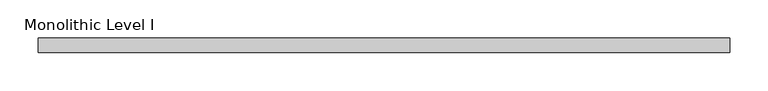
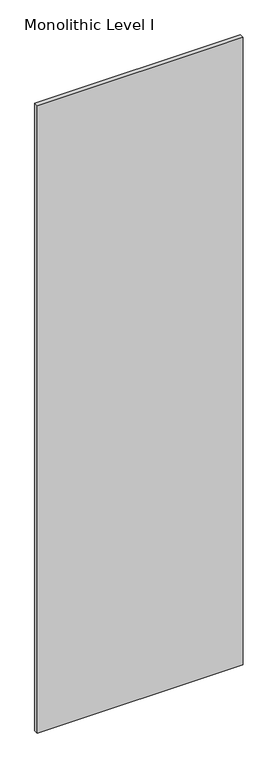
"""IFC4 building model written with IfcOpenShell, lengths in millimetres: proxy geometry, Panel-Fascia-Teknion-Altos-Standard : Monolithic Level I."""

from ifc_helpers import new_model, si_unit, frame, origin, place, context, project, spatial, polyline, outline, extrude, source, transform, mapped, element, save


def monolithic_level_i_b876e52f(model_context):
    return source(origin(), model_context, "Body", "SweptSolid", [
        extrude(outline(polyline([(454.025, -9.525), (-454.025, -9.525), (-454.025, 9.525), (454.025, 9.525), (454.025, -9.525)])), frame((0.0, 0.0, 3.175), z_axis=(0.0, 0.0, 1.0), x_axis=(1.0, 0.0, 0.0)), (0.0, 0.0, 1.0), 2928.493),
    ])


if __name__ == "__main__":
    model = new_model("IFC4")
    model_context = context("Model", 3, world=origin())
    ifc_project = project(units=[si_unit("LENGTHUNIT", "METRE", prefix="MILLI")], contexts=[model_context])
    site = spatial("IfcSite", under=ifc_project)
    building = spatial("IfcBuilding", under=site)
    placement = place(None, origin())
    monolithic_level_i_shape = monolithic_level_i_b876e52f(model_context)
    element("IfcBuildingElementProxy", 1, Name="Panel-Fascia-Teknion-Altos-Standard : Monolithic Level I", ObjectType="Panel-Fascia-Teknion-Altos-Standard : Monolithic Level I", at=placement, inside=building, context=model_context, shape_type="MappedRepresentation", body=[
        mapped(monolithic_level_i_shape, transform((0.0, 0.0, 0.0), x_axis=(1.0, 0.0, 0.0), y_axis=(0.0, 1.0, 0.0), z_axis=(0.0, 0.0, 1.0))),
    ])
    save(model, "model.ifc")
